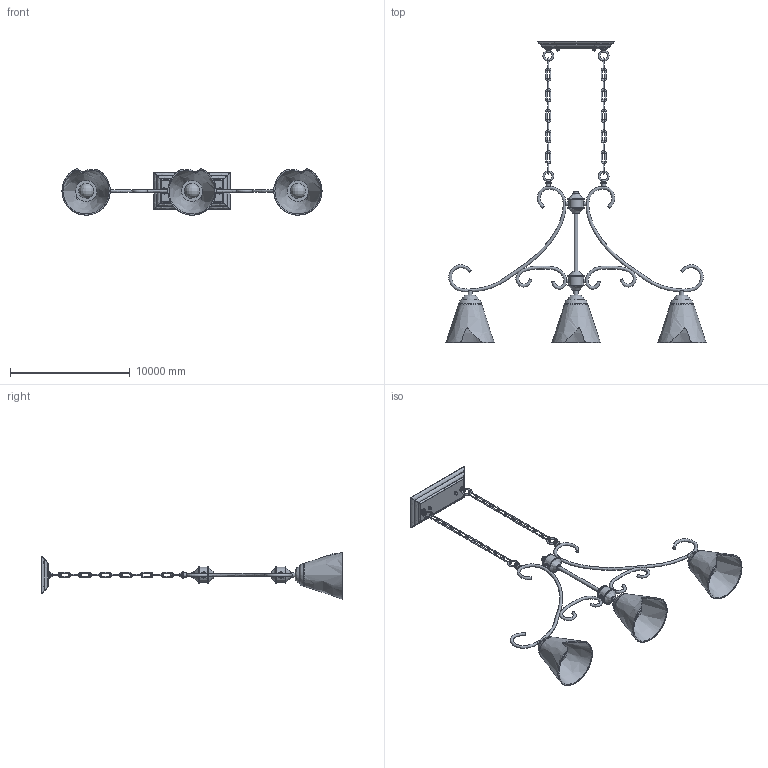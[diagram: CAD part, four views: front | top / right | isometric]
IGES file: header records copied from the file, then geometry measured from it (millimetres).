
Global section: file name: Vetraio Island Pendant Lamp; native system: AutoCAD 2022 - 简体中文 (Simplified Chinese),62HAuto; preprocessor: desk Translation Framework DWG producer (atf_dwg_producer); organization: unknown; date: 20251211.161642; units: inch
Bounding box: 21673.19 x 25152.81 x 3853.1 mm (x, y, z)
Volume: 19777085048 mm3; surface area: 442930985.8 mm2
Topology: 77 solids, 77 shells, 526 faces, 1170 edges, 771 vertices
Faces by surface type: bspline 526
